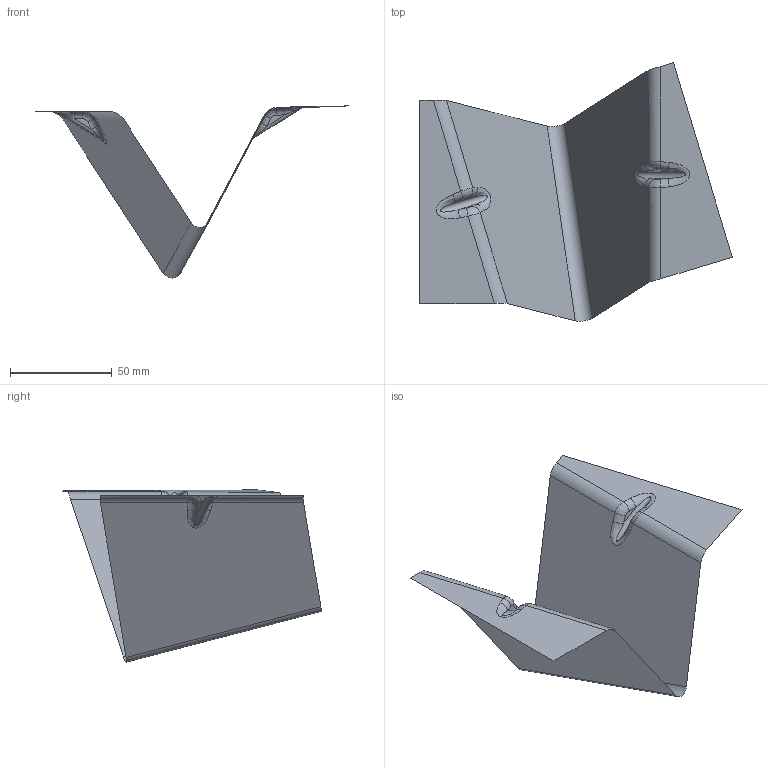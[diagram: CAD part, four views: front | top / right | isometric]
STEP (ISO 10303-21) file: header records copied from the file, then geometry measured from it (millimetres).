
FILE_DESCRIPTION(('CATIA V5 STEP Exchange'),'2;1');
FILE_NAME('C:\_Andres\UNIVERSIDAD\IQS\ASIGNATURAS\DAO\EXF\EXF-16172c\2inicio\Espinel_Roig_Ej03_v11.stp','2017-03-05T19:32:13+00:00',('none'),('none'),'CATIA Version 5-6 Release 2014 SP1 HF18','CATIA V5 STEP AP203','none');
FILE_SCHEMA(('CONFIG_CONTROL_DESIGN'));
Length unit declared in the file: millimetre
Products named in the file (1): Espinel_Roig_Ej03_v11
Bounding box: 153.91 x 127.19 x 84.74 mm (x, y, z)
Surface area: 22480.7 mm2 (no closed solid volume)
Topology: 0 solids, 1 shells, 31 faces, 78 edges, 48 vertices
Faces by surface type: cylinder 15, plane 8, bspline 8
Entity records: 2347 total; most frequent: CARTESIAN_POINT 1674, ORIENTED_EDGE 140, DIRECTION 90, EDGE_CURVE 78, VERTEX_POINT 48, VECTOR 40, LINE 40, ADVANCED_FACE 31
